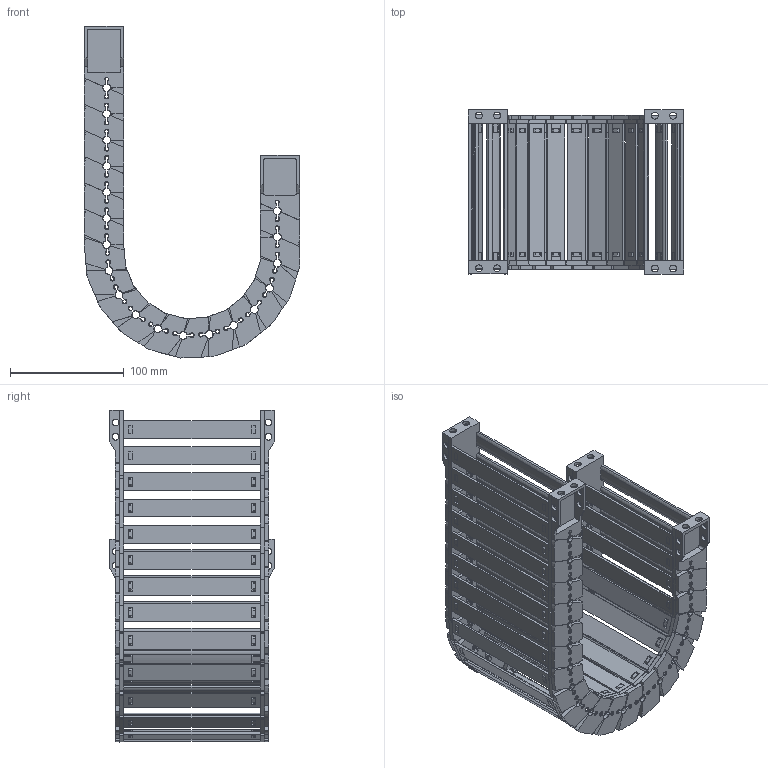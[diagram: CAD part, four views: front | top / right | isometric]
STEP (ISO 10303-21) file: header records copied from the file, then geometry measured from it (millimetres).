
FILE_DESCRIPTION(/* description */ (''),/* implementation_level */ '2;1');
FILE_NAME(/* name */ 'JY28-120-R75.stp',/* time_stamp */ '2026-06-03T16:14:59+08:00',/* author */ (''),/* organization */ (''),/* preprocessor_version */ 'ST-DEVELOPER v19.4',/* originating_system */ 'SIEMENS PLM Software NX2306.5001',/* authorisation */ '');
FILE_SCHEMA (('AP203_CONFIGURATION_CONTROLLED_3D_DESIGN_OF_MECHANICAL_PARTS_AND_ASSEMBLIES_MIM_LF { 1 0 10303 403 2 1 2}'));
Products named in the file (1): 简化图纸_objects
Bounding box: 189.55 x 144.5 x 292.17 mm (x, y, z)
Volume: 484098 mm3; surface area: 349238.1 mm2
Topology: 74 solids, 74 shells, 6194 faces, 17618 edges, 11518 vertices
Faces by surface type: plane 4058, cone 1120, cylinder 978, bspline 36, torus 2
Full cylindrical faces by diameter (mm): 6 x24
Entity records: 209461 total; most frequent: CARTESIAN_POINT 46487, ORIENTED_EDGE 35144, DIRECTION 33002, EDGE_CURVE 17572, LINE 11632, VECTOR 11632, VERTEX_POINT 11496, AXIS2_PLACEMENT_3D 10685
